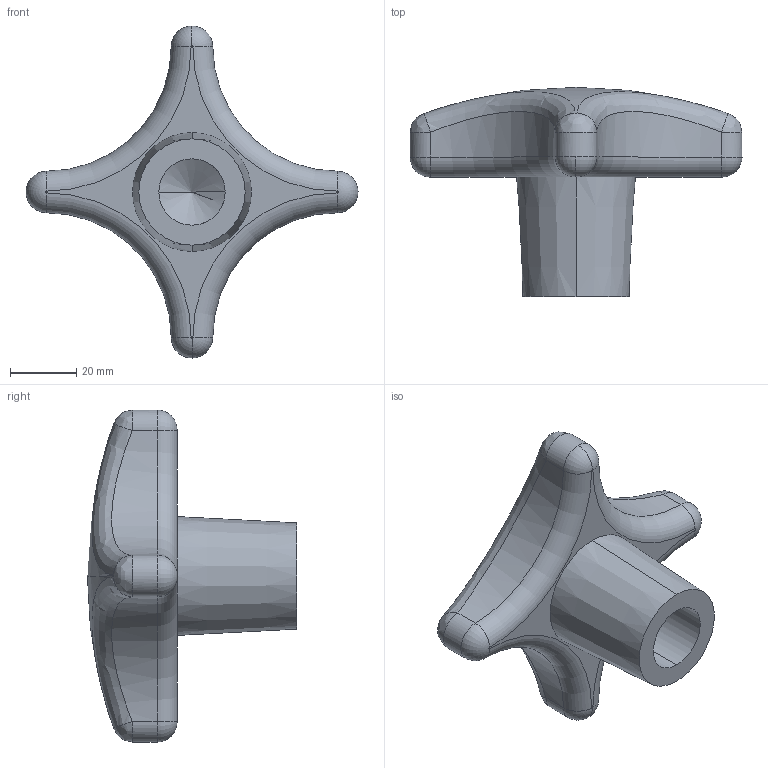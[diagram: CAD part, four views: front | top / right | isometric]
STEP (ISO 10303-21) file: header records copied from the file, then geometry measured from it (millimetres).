
FILE_DESCRIPTION (( 'STEP AP203' ), '1' );
FILE_NAME ('7000.W290.step', '2010-01-29T17:37:06', ( 'Wixroyd' ), ( 'Wixroyd' ), 'SwSTEP 2.0', 'SolidWorks 2009', '' );
FILE_SCHEMA (( 'CONFIG_CONTROL_DESIGN' ));
Length unit declared in the file: millimetre
Products named in the file (1): 7000.W290
Bounding box: 100 x 63 x 100 mm (x, y, z)
Volume: 99563.7 mm3; surface area: 18711.3 mm2
Topology: 1 solids, 1 shells, 38 faces, 87 edges, 51 vertices
Faces by surface type: cylinder 11, torus 10, bspline 8, cone 4, plane 3, sphere 2
Entity records: 7263 total; most frequent: CARTESIAN_POINT 6359, DIRECTION 179, ORIENTED_EDGE 170, EDGE_CURVE 85, AXIS2_PLACEMENT_3D 82, VERTEX_POINT 51, CIRCLE 51, EDGE_LOOP 40
